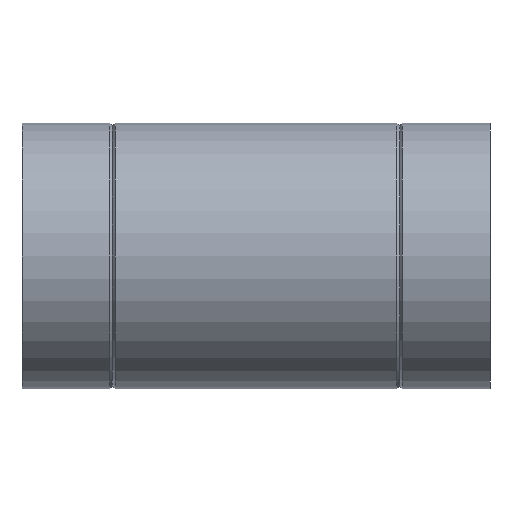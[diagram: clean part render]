
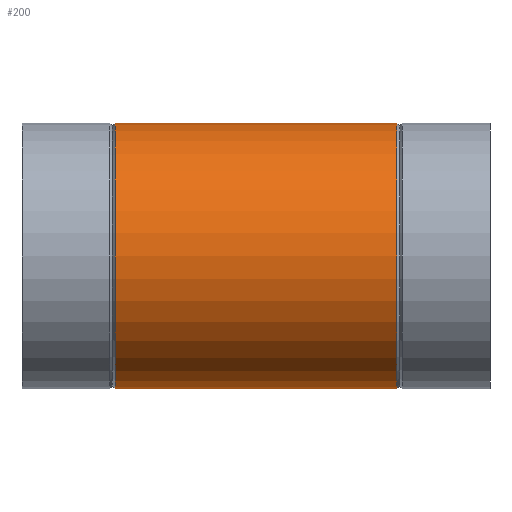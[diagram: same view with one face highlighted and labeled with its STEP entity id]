
A CAD part, left-side view. The second image highlights one B-rep face of the part: STEP entity #200.
In plain terms, the highlighted cylindrical face has radius 125 mm (diameter 250 mm), a full revolution.
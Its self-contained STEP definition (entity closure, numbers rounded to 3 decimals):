
#15=B_SPLINE_CURVE_WITH_KNOTS($,3,(#325,#326,#327,#328,#329,#330,#331,#332,
#333,#334,#335,#336,#337,#338,#339,#340,#341,#342,#343,#344,#345,#346,#347,
#348,#349,#350,#351,#352,#353,#354,#355,#356,#357,#358,#359,#360,#361,#362,
#363,#364,#365,#366,#367,#368,#369,#370,#371,#372,#373,#374,#375,#376,#377,
#378,#379,#380,#381,#382,#383,#384,#385,#386,#387,#388,#389,#390),
 .UNSPECIFIED.,.T.,.F.,(4,2,2,2,2,2,2,2,2,2,2,2,2,2,2,2,2,2,2,2,2,2,2,2,
2,2,2,2,2,2,2,2,4),(0.,1.582,3.164,4.746,
6.328,7.885,9.441,10.998,12.555,
14.111,15.668,17.224,18.781,20.363,
21.945,23.527,25.109,26.668,28.227,
29.786,31.345,32.9,34.456,36.011,
37.567,39.122,40.677,42.233,43.788,
45.347,46.906,48.465,50.024),
 .UNSPECIFIED.);
#17=CYLINDRICAL_SURFACE($,#222,125.);
#26=FACE_BOUND($,#63,.T.);
#27=FACE_BOUND($,#64,.T.);
#48=FACE_OUTER_BOUND($,#62,.T.);
#62=EDGE_LOOP($,(#145));
#63=EDGE_LOOP($,(#146));
#64=EDGE_LOOP($,(#147));
#94=CIRCLE($,#221,125.);
#95=CIRCLE($,#223,125.);
#109=VERTEX_POINT($,#319);
#110=VERTEX_POINT($,#322);
#111=VERTEX_POINT($,#324);
#126=EDGE_CURVE($,#109,#109,#94,.T.);
#127=EDGE_CURVE($,#110,#110,#95,.T.);
#128=EDGE_CURVE($,#111,#111,#15,.T.);
#145=ORIENTED_EDGE($,*,*,#127,.T.);
#146=ORIENTED_EDGE($,*,*,#128,.T.);
#147=ORIENTED_EDGE($,*,*,#126,.T.);
#200=ADVANCED_FACE($,(#48,#26,#27),#17,.T.);
#221=AXIS2_PLACEMENT_3D($,#320,#258,#259);
#222=AXIS2_PLACEMENT_3D($,#321,#260,#261);
#223=AXIS2_PLACEMENT_3D($,#323,#262,#263);
#258=DIRECTION('center_axis',(0.,-1.,0.));
#259=DIRECTION('ref_axis',(1.,0.,0.));
#260=DIRECTION('center_axis',(0.,1.,0.));
#261=DIRECTION('ref_axis',(1.,0.,0.));
#262=DIRECTION('center_axis',(0.,1.,0.));
#263=DIRECTION('ref_axis',(1.,0.,0.));
#319=CARTESIAN_POINT('',(125.,352.5,0.));
#320=CARTESIAN_POINT('Origin',(0.,352.5,0.));
#321=CARTESIAN_POINT('Origin',(0.,0.,0.));
#322=CARTESIAN_POINT('',(-125.,87.5,0.));
#323=CARTESIAN_POINT('Origin',(0.,87.5,0.));
#324=CARTESIAN_POINT('',(96.047,222.515,80.));
#325=CARTESIAN_POINT('Ctrl Pts',(96.047,222.515,80.));
#326=CARTESIAN_POINT('Ctrl Pts',(96.047,227.789,80.));
#327=CARTESIAN_POINT('Ctrl Pts',(96.494,233.156,79.472));
#328=CARTESIAN_POINT('Ctrl Pts',(98.206,243.702,77.347));
#329=CARTESIAN_POINT('Ctrl Pts',(99.466,248.882,75.751));
#330=CARTESIAN_POINT('Ctrl Pts',(102.484,258.745,71.615));
#331=CARTESIAN_POINT('Ctrl Pts',(104.24,263.437,69.071));
#332=CARTESIAN_POINT('Ctrl Pts',(107.875,272.107,63.244));
#333=CARTESIAN_POINT('Ctrl Pts',(109.751,276.083,59.959));
#334=CARTESIAN_POINT('Ctrl Pts',(113.262,283.086,53.024));
#335=CARTESIAN_POINT('Ctrl Pts',(115.033,286.384,49.127));
#336=CARTESIAN_POINT('Ctrl Pts',(118.319,292.261,40.577));
#337=CARTESIAN_POINT('Ctrl Pts',(119.833,294.84,35.924));
#338=CARTESIAN_POINT('Ctrl Pts',(122.344,299.03,26.127));
#339=CARTESIAN_POINT('Ctrl Pts',(123.341,300.643,20.972));
#340=CARTESIAN_POINT('Ctrl Pts',(124.67,302.779,10.503));
#341=CARTESIAN_POINT('Ctrl Pts',(125.,303.301,5.189));
#342=CARTESIAN_POINT('Ctrl Pts',(125.,303.301,-5.189));
#343=CARTESIAN_POINT('Ctrl Pts',(124.67,302.779,-10.503));
#344=CARTESIAN_POINT('Ctrl Pts',(123.341,300.643,-20.972));
#345=CARTESIAN_POINT('Ctrl Pts',(122.344,299.03,-26.127));
#346=CARTESIAN_POINT('Ctrl Pts',(119.833,294.84,-35.924));
#347=CARTESIAN_POINT('Ctrl Pts',(118.319,292.261,-40.577));
#348=CARTESIAN_POINT('Ctrl Pts',(115.033,286.384,-49.127));
#349=CARTESIAN_POINT('Ctrl Pts',(113.262,283.086,-53.024));
#350=CARTESIAN_POINT('Ctrl Pts',(109.751,276.083,-59.959));
#351=CARTESIAN_POINT('Ctrl Pts',(107.875,272.107,-63.244));
#352=CARTESIAN_POINT('Ctrl Pts',(104.24,263.437,-69.071));
#353=CARTESIAN_POINT('Ctrl Pts',(102.484,258.745,-71.615));
#354=CARTESIAN_POINT('Ctrl Pts',(99.466,248.882,-75.751));
#355=CARTESIAN_POINT('Ctrl Pts',(98.206,243.702,-77.347));
#356=CARTESIAN_POINT('Ctrl Pts',(96.494,233.156,-79.472));
#357=CARTESIAN_POINT('Ctrl Pts',(96.047,227.789,-80.));
#358=CARTESIAN_POINT('Ctrl Pts',(96.047,217.318,-80.));
#359=CARTESIAN_POINT('Ctrl Pts',(96.482,212.025,-79.486));
#360=CARTESIAN_POINT('Ctrl Pts',(98.166,201.632,-77.396));
#361=CARTESIAN_POINT('Ctrl Pts',(99.412,196.532,-75.821));
#362=CARTESIAN_POINT('Ctrl Pts',(102.407,186.839,-71.723));
#363=CARTESIAN_POINT('Ctrl Pts',(104.155,182.236,-69.198));
#364=CARTESIAN_POINT('Ctrl Pts',(107.779,173.751,-63.407));
#365=CARTESIAN_POINT('Ctrl Pts',(109.651,169.868,-60.139));
#366=CARTESIAN_POINT('Ctrl Pts',(113.179,162.997,-53.203));
#367=CARTESIAN_POINT('Ctrl Pts',(114.969,159.753,-49.278));
#368=CARTESIAN_POINT('Ctrl Pts',(118.287,153.99,-40.676));
#369=CARTESIAN_POINT('Ctrl Pts',(119.812,151.471,-35.998));
#370=CARTESIAN_POINT('Ctrl Pts',(122.337,147.387,-26.16));
#371=CARTESIAN_POINT('Ctrl Pts',(123.339,145.821,-20.989));
#372=CARTESIAN_POINT('Ctrl Pts',(124.67,143.749,-10.502));
#373=CARTESIAN_POINT('Ctrl Pts',(125.,143.246,-5.185));
#374=CARTESIAN_POINT('Ctrl Pts',(125.,143.246,5.185));
#375=CARTESIAN_POINT('Ctrl Pts',(124.67,143.749,10.502));
#376=CARTESIAN_POINT('Ctrl Pts',(123.339,145.821,20.989));
#377=CARTESIAN_POINT('Ctrl Pts',(122.337,147.387,26.16));
#378=CARTESIAN_POINT('Ctrl Pts',(119.812,151.471,35.998));
#379=CARTESIAN_POINT('Ctrl Pts',(118.287,153.99,40.676));
#380=CARTESIAN_POINT('Ctrl Pts',(114.969,159.753,49.278));
#381=CARTESIAN_POINT('Ctrl Pts',(113.179,162.997,53.203));
#382=CARTESIAN_POINT('Ctrl Pts',(109.651,169.868,60.139));
#383=CARTESIAN_POINT('Ctrl Pts',(107.779,173.751,63.407));
#384=CARTESIAN_POINT('Ctrl Pts',(104.155,182.236,69.198));
#385=CARTESIAN_POINT('Ctrl Pts',(102.407,186.839,71.723));
#386=CARTESIAN_POINT('Ctrl Pts',(99.412,196.532,75.821));
#387=CARTESIAN_POINT('Ctrl Pts',(98.166,201.632,77.396));
#388=CARTESIAN_POINT('Ctrl Pts',(96.482,212.025,79.486));
#389=CARTESIAN_POINT('Ctrl Pts',(96.047,217.318,80.));
#390=CARTESIAN_POINT('Ctrl Pts',(96.047,222.515,80.));
